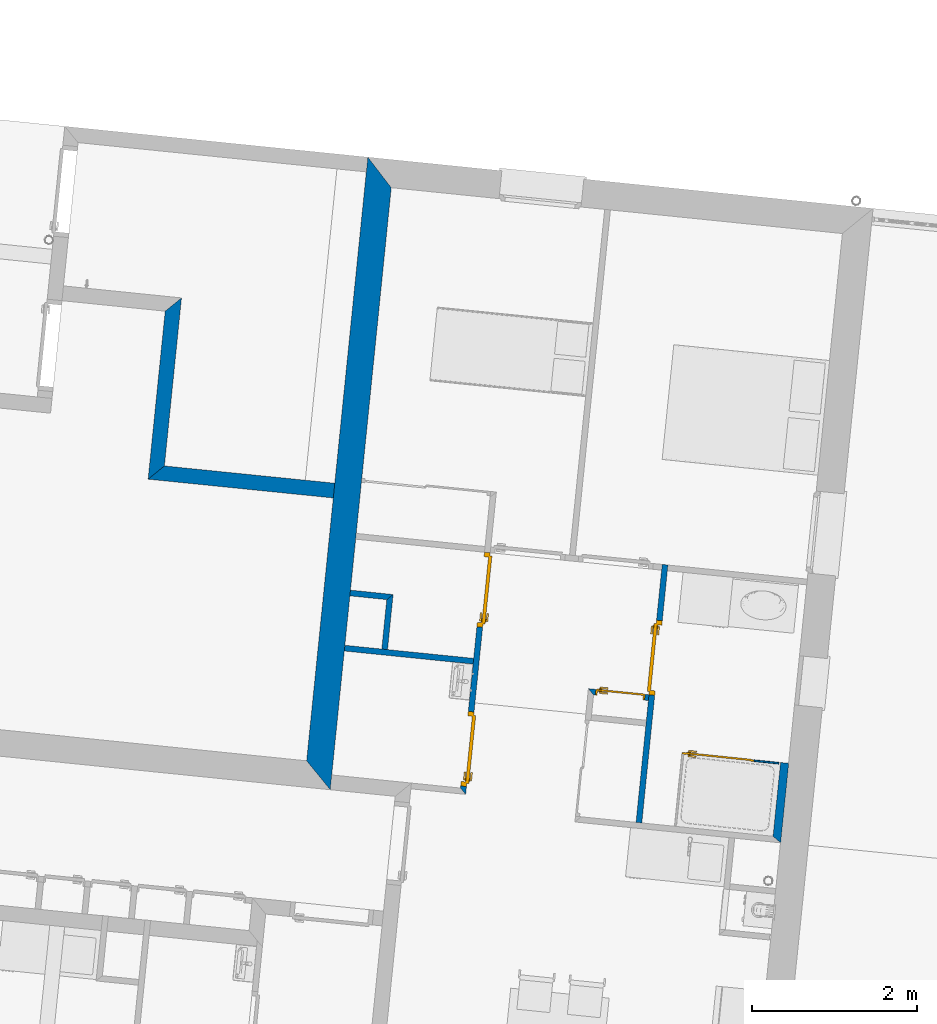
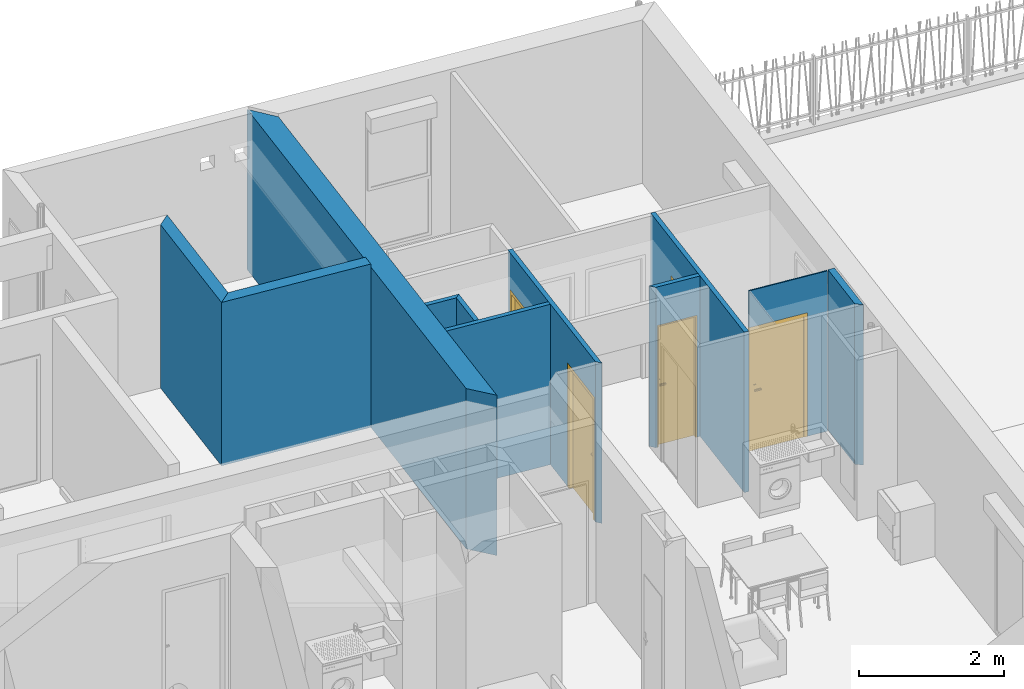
# One storey, part 79 of 171: 11 walls, 5 doors, 5 openings.
"""IFC2X3 building model written with IfcOpenShell, lengths in millimetres."""

from ifc_helpers import new_model, entity, si_unit, converted_unit, derived_unit, money_unit, direction, frame, origin_with_axes, origin_2d_with_axis, place, context, subcontext, project, spatial, polyline, rectangle, outline, extrude, faceted_brep, source, transform, mapped, material, layer, layer_set, layer_usage, type_object, element, fill, save


model = new_model("IFC2X3")

# Units and contexts
model_context = context("Model", 3, precision=0.01, world=origin_with_axes(), true_north=direction((0.0, 1.0)))
body_context = subcontext(model_context, "Body", "Model", "MODEL_VIEW")
ifc_project = project(units=[si_unit("LENGTHUNIT", "METRE", prefix="MILLI"), si_unit("AREAUNIT", "SQUARE_METRE"), si_unit("VOLUMEUNIT", "CUBIC_METRE"), converted_unit("PLANEANGLEUNIT", "DEGREE", entity("IfcPlaneAngleMeasure", 0.0174532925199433), si_unit("PLANEANGLEUNIT", "RADIAN"), dimensions=[0, 0, 0, 0, 0, 0, 0]), money_unit("USD"), converted_unit("TIMEUNIT", "Year", entity("IfcTimeMeasure", 31557600.0), si_unit("TIMEUNIT", "SECOND"), dimensions=[0, 0, 1, 0, 0, 0, 0]), si_unit("MASSUNIT", "GRAM", prefix="KILO"), si_unit("THERMODYNAMICTEMPERATUREUNIT", "DEGREE_CELSIUS"), si_unit("LUMINOUSINTENSITYUNIT", "LUMEN"), si_unit("ENERGYUNIT", "JOULE", prefix="MEGA"), derived_unit("THERMALCONDUCTANCEUNIT", [(si_unit("POWERUNIT", "WATT"), 1), (si_unit("LENGTHUNIT", "METRE"), -1), (si_unit("THERMODYNAMICTEMPERATUREUNIT", "KELVIN"), -1)]), derived_unit("SPECIFICHEATCAPACITYUNIT", [(si_unit("ENERGYUNIT", "JOULE"), 1), (si_unit("MASSUNIT", "GRAM", prefix="KILO"), -1), (si_unit("THERMODYNAMICTEMPERATUREUNIT", "KELVIN"), -1)]), derived_unit("MASSDENSITYUNIT", [(si_unit("MASSUNIT", "GRAM", prefix="KILO"), 1), (si_unit("VOLUMEUNIT", "CUBIC_METRE"), -1)])], contexts=[model_context])

# Site, building, storey
site_placement = place(None, origin_with_axes())
site = spatial("IfcSite", under=ifc_project, at=site_placement, Name="Site", CompositionType="ELEMENT")
building_placement = place(site_placement, origin_with_axes())
building = spatial("IfcBuilding", under=site, at=building_placement, Name="Bâtiment", CompositionType="ELEMENT")
storey_placement = place(building_placement, frame((0.0, 0.0, 3000.0), z_axis=(0.0, 0.0, 1.0), x_axis=(1.0, 0.0, 0.0)))
storey = spatial("IfcBuildingStorey", under=building, at=storey_placement, Name="rdc", CompositionType="ELEMENT", Elevation=3000.0)

# Walls
ifc_material_1 = material(Name="Hachure solide 268963992")
ifc_layer_1 = layer(ifc_material_1, 70.0, ventilated="UNKNOWN")
ifc_layer_set_1 = layer_set([ifc_layer_1], Name="Cloison 70 0826278243")
ifc_layer_usage_1 = layer_usage(ifc_layer_set_1, "AXIS2", "NEGATIVE", 70.0)
wall_type_1 = type_object("IfcWallType", Name="Cloison 70 0826278243 70", PredefinedType="NOTDEFINED")
wall_1_placement = place(storey_placement, frame((2234359.093324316, -610919.6337905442, 0.0), z_axis=(0.0, 0.0, 1.0), x_axis=(-0.9947430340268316, 0.1024026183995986, 0.0)))
element("IfcWallStandardCase", 1, at=wall_1_placement, inside=storey, type_object=wall_type_1, material=ifc_layer_usage_1, Name="Mur-149", context=body_context, shape_type="SweptSolid", body=[
    extrude(outline(polyline([(0.0, 0.0), (520.0369380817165, 0.0), (519.9271556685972, 70.00000000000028), (69.88252418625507, 70.00000000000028), (0.0, 0.0)])), origin_with_axes(), (0.0, 0.0, 1.0), 2700.0),
])
ifc_layer_usage_2 = layer_usage(ifc_layer_set_1, "AXIS2", "NEGATIVE", 70.0)
wall_2_placement = place(storey_placement, frame((2234284.3465245, -611657.89823324, 0.0), z_axis=(0.0, 0.0, 1.0), x_axis=(0.1007316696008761, 0.9949136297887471, 0.0)))
element("IfcWallStandardCase", 2, at=wall_2_placement, inside=storey, type_object=wall_type_1, material=ifc_layer_usage_2, Name="Mur-149", context=body_context, shape_type="SweptSolid", body=[
    extrude(outline(polyline([(70.0000007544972, 1.13686837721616e-10), (742.0387263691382, 0.0), (672.1562021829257, 70.00000000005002), (70.01027850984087, 70.00000000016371), (70.0000007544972, 1.13686837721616e-10)])), origin_with_axes(), (0.0, 0.0, 1.0), 2700.0),
])

# Wall, openings, doors
ifc_layer_usage_3 = layer_usage(ifc_layer_set_1, "AXIS2", "NEGATIVE", 0.0)
wall_3_placement = place(storey_placement, frame((2235176.883858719, -613267.9689967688, 0.0), z_axis=(0.0, 0.0, 1.0), x_axis=(0.1011031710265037, 0.9948759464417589, 0.0)))
wall_3 = element("IfcWallStandardCase", 3, at=wall_3_placement, inside=storey, type_object=wall_type_1, material=ifc_layer_usage_3, Name="Mur-153", context=body_context, shape_type="SweptSolid", body=[
    extrude(outline(polyline([(-70.00000146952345, -69.99999999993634), (2947.070109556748, -69.99999999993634), (2947.070109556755, 1.13686837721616e-10), (0.0, 0.0), (-70.00000146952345, -69.99999999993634)])), origin_with_axes(), (0.0, 0.0, 1.0), 2700.0),
])
opening_1_placement = place(wall_3_placement, frame((2422.079776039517, -1.13686837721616e-10, 0.0), z_axis=(0.0, 0.0, 1.0), x_axis=(1.0, 0.0, 0.0)))
opening_1 = element("IfcOpeningElement", 4, at=opening_1_placement, cuts=wall_3, Name="Por-283", context=body_context, shape_type="SweptSolid", body=[
    extrude(rectangle(XDim=910.0, YDim=2080.0, at=origin_2d_with_axis()), frame((0.0, 69.99999999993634, 1040.0), z_axis=(0.0, 1.0, 0.0), x_axis=(1.0, 0.0, 0.0)), (0.0, 0.0, -1.0), 140.0),
])
opening_2_placement = place(wall_3_placement, frame((480.5436980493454, -2.273736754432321e-10, 0.0), z_axis=(0.0, 0.0, 1.0), x_axis=(1.0, 0.0, 0.0)))
opening_2 = element("IfcOpeningElement", 5, at=opening_2_placement, cuts=wall_3, Name="Por-283", context=body_context, shape_type="SweptSolid", body=[
    extrude(rectangle(XDim=910.0, YDim=2080.0, at=origin_2d_with_axis()), frame((0.0, 70.00000000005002, 1040.0), z_axis=(0.0, 1.0, 0.0), x_axis=(1.0, 0.0, 0.0)), (0.0, 0.0, -1.0), 140.0),
])
door_style = type_object("IfcDoorStyle", Name="Porte_1v", ConstructionType="NOTDEFINED", OperationType="NOTDEFINED", ParameterTakesPrecedence=False, Sizeable=False)
shared_shape_1 = source(origin_with_axes(), body_context, "Body", "Brep", [
    faceted_brep([(-454.9999999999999, 0.0, 0.0), (-454.9999999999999, 0.0, 2080.0), (454.9999999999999, 0.0, 2080.0), (454.9999999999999, 0.0, 0.0), (414.9999999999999, 0.0, 0.0), (414.9999999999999, 0.0, 2040.0), (-414.9999999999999, 0.0, 2040.0), (-414.9999999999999, 0.0, 0.0), (-454.9999999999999, -69.99999999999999, 0.0), (-454.9999999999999, -69.99999999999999, 2080.0), (454.9999999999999, -69.99999999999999, 2080.0), (454.9999999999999, -69.99999999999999, 0.0), (399.9999999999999, -69.99999999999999, 0.0), (399.9999999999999, -15.0, 0.0), (414.9999999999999, -15.0, 0.0), (414.9999999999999, -15.0, 2040.0), (-414.9999999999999, -14.99999999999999, 2040.0), (-414.9999999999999, -14.99999999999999, 0.0), (-399.9999999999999, -14.99999999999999, 0.0), (-399.9999999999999, -69.99999999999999, 0.0), (-399.9999999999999, -69.99999999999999, 2025.0), (399.9999999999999, -69.99999999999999, 2025.0), (399.9999999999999, -15.0, 2025.0), (-399.9999999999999, -14.99999999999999, 2025.0)], [[[0, 1, 2, 3, 4, 5, 6, 7]], [[8, 9, 1, 0]], [[9, 10, 2, 1]], [[10, 11, 3, 2]], [[3, 11, 12, 13, 14, 4]], [[5, 4, 14, 15]], [[6, 5, 15, 16]], [[7, 6, 16, 17]], [[0, 7, 17, 18, 19, 8]], [[19, 20, 21, 12, 11, 10, 9, 8]], [[22, 13, 12, 21]], [[17, 16, 15, 14, 13, 22, 23, 18]], [[18, 23, 20, 19]], [[23, 22, 21, 20]]]),
    faceted_brep([(350.0, -15.0, 900.0), (350.0, -15.0, 1100.0), (389.9999999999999, -15.0, 1100.0), (389.9999999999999, -15.0, 900.0), (350.0, -25.0, 900.0), (350.0, -25.0, 1100.0), (389.9999999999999, -25.0, 1100.0), (389.9999999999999, -25.0, 900.0)], [[[0, 1, 2, 3]], [[0, 4, 5, 1]], [[1, 5, 6, 2]], [[2, 6, 7, 3]], [[3, 7, 4, 0]], [[7, 6, 5, 4]]]),
    faceted_brep([(279.9999999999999, -25.0, 1000.0), (279.9999999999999, -25.0, 1020.0), (379.9999999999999, -25.0, 1020.0), (379.9999999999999, -25.0, 1000.0), (279.9999999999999, -45.0, 1000.0), (279.9999999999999, -45.0, 1020.0), (379.9999999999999, -45.0, 1020.0), (379.9999999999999, -45.0, 1000.0)], [[[0, 1, 2, 3]], [[0, 4, 5, 1]], [[1, 5, 6, 2]], [[2, 6, 7, 3]], [[3, 7, 4, 0]], [[7, 6, 5, 4]]]),
    faceted_brep([(350.0, 34.99999999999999, 900.0), (350.0, 34.99999999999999, 1100.0), (389.9999999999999, 34.99999999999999, 1100.0), (389.9999999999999, 34.99999999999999, 900.0), (350.0, 24.99999999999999, 900.0), (350.0, 24.99999999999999, 1100.0), (389.9999999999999, 24.99999999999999, 1100.0), (389.9999999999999, 24.99999999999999, 900.0)], [[[0, 1, 2, 3]], [[0, 4, 5, 1]], [[1, 5, 6, 2]], [[2, 6, 7, 3]], [[3, 7, 4, 0]], [[7, 6, 5, 4]]]),
    faceted_brep([(279.9999999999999, 54.99999999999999, 1000.0), (279.9999999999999, 54.99999999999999, 1020.0), (379.9999999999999, 54.99999999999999, 1020.0), (379.9999999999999, 54.99999999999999, 1000.0), (279.9999999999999, 34.99999999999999, 1000.0), (279.9999999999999, 34.99999999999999, 1020.0), (379.9999999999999, 34.99999999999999, 1020.0), (379.9999999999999, 34.99999999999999, 1000.0)], [[[0, 1, 2, 3]], [[0, 4, 5, 1]], [[1, 5, 6, 2]], [[2, 6, 7, 3]], [[3, 7, 4, 0]], [[7, 6, 5, 4]]]),
    faceted_brep([(414.9999999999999, 24.99999999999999, 0.0), (414.9999999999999, -15.0, 0.0), (-414.9999999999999, -14.99999999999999, 0.0), (-414.9999999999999, 25.0, 0.0), (414.9999999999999, 24.99999999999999, 2040.0), (414.9999999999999, -15.0, 2040.0), (-414.9999999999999, -14.99999999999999, 2040.0), (-414.9999999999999, 25.0, 2040.0)], [[[0, 1, 2, 3]], [[4, 5, 1, 0]], [[1, 5, 6, 2]], [[3, 2, 6, 7]], [[0, 3, 7, 4]], [[7, 6, 5, 4]]]),
])
door_1_placement = place(opening_2_placement, frame((414.9999999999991, 0.0, 0.0), z_axis=(0.0, 0.0, 1.0), x_axis=(-1.0, 0.0, 0.0)))
door_1 = element("IfcDoor", 6, at=door_1_placement, inside=storey, type_object=door_style, Name="Por-283", OverallHeight=2040.0, OverallWidth=830.0, context=body_context, shape_type="MappedRepresentation", body=[
    mapped(shared_shape_1, transform((415.0000000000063, 69.99999999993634, 0.0))),
])
fill(opening_2, door_1)
door_2_placement = place(opening_1_placement, frame((414.9999999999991, 0.0, 0.0), z_axis=(0.0, 0.0, 1.0), x_axis=(-1.0, 0.0, 0.0)))
door_2 = element("IfcDoor", 7, at=door_2_placement, inside=storey, type_object=door_style, Name="Por-283", OverallHeight=2040.0, OverallWidth=830.0, context=body_context, shape_type="MappedRepresentation", body=[
    mapped(shared_shape_1, transform((415.0000000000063, 69.99999999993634, 0.0))),
])
fill(opening_1, door_2)

# Wall, opening, door
ifc_layer_usage_4 = layer_usage(ifc_layer_set_1, "AXIS2", "NEGATIVE", 0.0)
wall_4_placement = place(storey_placement, frame((2237306.811489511, -613684.1144448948, 0.0), z_axis=(0.0, 0.0, 1.0), x_axis=(0.1008361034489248, 0.994903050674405, 0.0)))
wall_4 = element("IfcWallStandardCase", 8, at=wall_4_placement, inside=storey, type_object=wall_type_1, material=ifc_layer_usage_4, Name="Mur-153", context=body_context, shape_type="SweptSolid", body=[
    extrude(outline(polyline([(-0.01878249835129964, -70.00000000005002), (3145.750441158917, -70.00000000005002), (3145.750441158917, 0.0), (1.234235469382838e-05, -1.13686837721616e-10), (-0.01878249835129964, -70.00000000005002)])), origin_with_axes(), (0.0, 0.0, 1.0), 2700.0),
])
opening_3_placement = place(wall_4_placement, frame((2010.687155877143, -1.13686837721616e-10, 0.0), z_axis=(0.0, 0.0, 1.0), x_axis=(1.0, 0.0, 0.0)))
opening_3 = element("IfcOpeningElement", 9, at=opening_3_placement, cuts=wall_4, Name="Por-283", context=body_context, shape_type="SweptSolid", body=[
    extrude(rectangle(XDim=910.0, YDim=2080.0, at=origin_2d_with_axis()), frame((0.0, -70.00000000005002, 1040.0), z_axis=(0.0, -1.0, 0.0), x_axis=(-1.0, 0.0, 0.0)), (0.0, 0.0, -1.0), 140.0),
])
door_3_placement = place(opening_3_placement, frame((-415.000000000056, 2.273736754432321e-10, 0.0), z_axis=(0.0, 0.0, 1.0), x_axis=(1.0, 0.0, 0.0)))
door_3 = element("IfcDoor", 10, at=door_3_placement, inside=storey, type_object=door_style, Name="Por-283", OverallHeight=2040.0, OverallWidth=830.0, context=body_context, shape_type="MappedRepresentation", body=[
    mapped(shared_shape_1, transform((414.9999999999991, 0.0, 0.0))),
])
fill(opening_3, door_3)

ifc_material_2 = material(Name="Hachure solide 269229667")
ifc_layer_2 = layer(ifc_material_2, 70.0, ventilated="UNKNOWN")
ifc_layer_set_2 = layer_set([ifc_layer_2], Name="Cloison 70 0836576958")
ifc_layer_usage_5 = layer_usage(ifc_layer_set_2, "AXIS2", "NEGATIVE", 0.0)
wall_type_2 = type_object("IfcWallType", Name="Cloison 70 0836576958 70", PredefinedType="NOTDEFINED")
wall_5_placement = place(storey_placement, frame((2236728.789820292, -612061.8733555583, 0.0), z_axis=(0.0, 0.0, 1.0), x_axis=(0.9949030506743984, -0.1008361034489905, 0.0)))
wall_5 = element("IfcWallStandardCase", 11, at=wall_5_placement, inside=storey, type_object=wall_type_2, material=ifc_layer_usage_5, Name="Mur-148", context=body_context, shape_type="SweptSolid", body=[
    extrude(outline(polyline([(70.00000000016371, -69.99999999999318), (738.6559923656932, -70.00000000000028), (738.6559923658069, 0.0), (0.0, 0.0), (70.00000000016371, -69.99999999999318)])), origin_with_axes(), (0.0, 0.0, 1.0), 2700.0),
])
opening_4_placement = place(wall_5_placement, frame((391.7999475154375, 0.0, 0.0), z_axis=(0.0, 0.0, 1.0), x_axis=(1.0, 0.0, 0.0)))
opening_4 = element("IfcOpeningElement", 12, at=opening_4_placement, cuts=wall_5, Name="Por-274", context=body_context, shape_type="SweptSolid", body=[
    extrude(rectangle(XDim=600.0000000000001, YDim=2050.0, at=origin_2d_with_axis()), frame((-1.13686837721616e-10, -70.00000000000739, 1025.0), z_axis=(0.0, 1.0, 0.0), x_axis=(1.0, 0.0, 0.0)), (0.0, 0.0, 1.0), 140.0),
])
shared_shape_2 = source(origin_with_axes(), body_context, "Body", "Brep", [
    faceted_brep([(300.0, 0.0, 0.0), (290.0, 0.0, 0.0), (290.0, 0.0, 2040.0), (-290.0, 0.0, 2040.0), (-290.0, 0.0, 0.0), (-300.0, 0.0, 0.0), (-300.0, 0.0, 2050.0), (300.0, 0.0, 2050.0), (300.0, -70.0, 0.0), (279.9999999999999, -70.0, 0.0), (279.9999999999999, -15.0, 0.0), (290.0, -15.0, 0.0), (290.0, -15.0, 2040.0), (-290.0, -15.0, 2040.0), (-290.0, -15.0, 0.0), (-279.9999999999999, -15.0, 0.0), (-279.9999999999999, -70.0, 0.0), (-300.0, -70.0, 0.0), (-300.0, -70.0, 2050.0), (300.0, -70.0, 2050.0), (-279.9999999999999, -70.0, 2030.0), (279.9999999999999, -70.0, 2030.0), (279.9999999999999, -15.0, 2030.0), (-279.9999999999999, -15.0, 2030.0)], [[[0, 1, 2, 3, 4, 5, 6, 7]], [[0, 8, 9, 10, 11, 1]], [[1, 11, 12, 2]], [[2, 12, 13, 3]], [[3, 13, 14, 4]], [[5, 4, 14, 15, 16, 17]], [[18, 6, 5, 17]], [[19, 7, 6, 18]], [[8, 0, 7, 19]], [[9, 8, 19, 18, 17, 16, 20, 21]], [[10, 9, 21, 22]], [[11, 10, 22, 23, 15, 14, 13, 12]], [[23, 20, 16, 15]], [[22, 21, 20, 23]]]),
    faceted_brep([(-224.9999999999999, -15.0, 900.0), (-264.9999999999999, -15.0, 900.0), (-264.9999999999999, -15.0, 1100.0), (-224.9999999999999, -15.0, 1100.0), (-224.9999999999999, -25.0, 900.0), (-264.9999999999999, -25.0, 900.0), (-264.9999999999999, -25.0, 1100.0), (-224.9999999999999, -25.0, 1100.0)], [[[0, 1, 2, 3]], [[1, 0, 4, 5]], [[2, 1, 5, 6]], [[3, 2, 6, 7]], [[0, 3, 7, 4]], [[5, 4, 7, 6]]]),
    faceted_brep([(-154.9999999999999, -25.0, 1000.0), (-254.9999999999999, -25.0, 1000.0), (-254.9999999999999, -25.0, 1020.0), (-154.9999999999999, -25.0, 1020.0), (-154.9999999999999, -45.0, 1000.0), (-254.9999999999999, -45.0, 1000.0), (-254.9999999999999, -45.0, 1020.0), (-154.9999999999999, -45.0, 1020.0)], [[[0, 1, 2, 3]], [[1, 0, 4, 5]], [[2, 1, 5, 6]], [[3, 2, 6, 7]], [[0, 3, 7, 4]], [[5, 4, 7, 6]]]),
    faceted_brep([(-224.9999999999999, 15.0, 900.0), (-264.9999999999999, 15.0, 900.0), (-264.9999999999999, 15.0, 1100.0), (-224.9999999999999, 15.0, 1100.0), (-224.9999999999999, 5.000000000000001, 900.0), (-264.9999999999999, 5.000000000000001, 900.0), (-264.9999999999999, 5.000000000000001, 1100.0), (-224.9999999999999, 5.000000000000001, 1100.0)], [[[0, 1, 2, 3]], [[1, 0, 4, 5]], [[2, 1, 5, 6]], [[3, 2, 6, 7]], [[0, 3, 7, 4]], [[5, 4, 7, 6]]]),
    faceted_brep([(-154.9999999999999, 35.0, 1000.0), (-254.9999999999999, 35.0, 1000.0), (-254.9999999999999, 35.0, 1020.0), (-154.9999999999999, 35.0, 1020.0), (-154.9999999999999, 15.0, 1000.0), (-254.9999999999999, 15.0, 1000.0), (-254.9999999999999, 15.0, 1020.0), (-154.9999999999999, 15.0, 1020.0)], [[[0, 1, 2, 3]], [[1, 0, 4, 5]], [[2, 1, 5, 6]], [[3, 2, 6, 7]], [[0, 3, 7, 4]], [[5, 4, 7, 6]]]),
    faceted_brep([(-290.0, 5.000000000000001, 0.0), (290.0, 5.000000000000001, 0.0), (290.0, -15.0, 0.0), (-290.0, -15.0, 0.0), (-290.0, 5.000000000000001, 2040.0), (290.0, 5.000000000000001, 2040.0), (290.0, -15.0, 2040.0), (-290.0, -15.0, 2040.0)], [[[0, 1, 2, 3]], [[0, 4, 5, 1]], [[1, 5, 6, 2]], [[3, 2, 6, 7]], [[4, 0, 3, 7]], [[5, 4, 7, 6]]]),
])
door_4_placement = place(opening_4_placement, frame((-290.000000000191, 0.0, 0.0), z_axis=(0.0, 0.0, 1.0), x_axis=(1.0, 0.0, 0.0)))
door_4 = element("IfcDoor", 13, at=door_4_placement, inside=storey, type_object=door_style, Name="Por-274", OverallHeight=2040.0, OverallWidth=580.0, context=body_context, shape_type="MappedRepresentation", body=[
    mapped(shared_shape_2, transform((290.0000000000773, 0.0, 0.0))),
])
fill(opening_4, door_4)

# Walls
ifc_layer_usage_6 = layer_usage(ifc_layer_set_2, "AXIS2", "POSITIVE", 0.0)
wall_6_placement = place(storey_placement, frame((2233767.321974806, -611605.4745394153, 0.0), z_axis=(0.0, 0.0, 1.0), x_axis=(0.9948988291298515, -0.1008777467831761, 0.0)))
element("IfcWallStandardCase", 14, at=wall_6_placement, inside=storey, type_object=wall_type_2, material=ifc_layer_usage_6, Name="Mur-148", context=body_context, shape_type="SweptSolid", body=[
    extrude(outline(polyline([(0.0, 0.0), (1570.422715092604, 0.0), (1570.438575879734, 69.99999999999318), (0.0, 70.00000000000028), (0.0, 0.0)])), origin_with_axes(), (0.0, 0.0, 1.0), 2700.0),
])
ifc_material_3 = material(Name="Parpaing 312445824")
ifc_layer_3 = layer(ifc_material_3, 180.0, ventilated="UNKNOWN")
ifc_material_4 = material(Name="Isolant styromousse 301821074")
ifc_layer_4 = layer(ifc_material_4, 140.0, ventilated="UNKNOWN")
ifc_layer_set_3 = layer_set([ifc_layer_3, ifc_layer_4], Name="isol int 18+14")
ifc_layer_usage_7 = layer_usage(ifc_layer_set_3, "AXIS2", "POSITIVE", 0.0)
wall_type_3 = type_object("IfcWallType", Name="isol int 18+14 320", PredefinedType="NOTDEFINED")
wall_7_placement = place(storey_placement, frame((2233596.309467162, -613288.2719345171, 0.0), z_axis=(0.0, 0.0, 1.0), x_axis=(0.1008424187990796, 0.9949024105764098, 0.0)))
element("IfcWallStandardCase", 15, at=wall_7_placement, inside=storey, type_object=wall_type_3, material=ifc_layer_usage_7, Name="Mur-143", context=body_context, shape_type="SweptSolid", body=[
    extrude(outline(polyline([(0.0, 0.0), (7341.91527730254, 1.13686837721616e-10), (7681.999174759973, 320.00000000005), (320.0838803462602, 320.0000000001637), (0.0, 0.0)])), origin_with_axes(), (0.0, 0.0, 1.0), 2700.0),
])
ifc_layer_5 = layer(ifc_material_3, 180.0, ventilated="UNKNOWN")
ifc_layer_set_4 = layer_set([ifc_layer_5], Name="Beton  18 0836643197")
ifc_layer_usage_8 = layer_usage(ifc_layer_set_4, "AXIS2", "NEGATIVE", 0.0)
wall_type_4 = type_object("IfcWallType", Name="Beton  18 0836643197 180", PredefinedType="NOTDEFINED")
wall_8_placement = place(storey_placement, frame((2231584.262086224, -609359.722601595, 0.0), z_axis=(0.0, 0.0, 1.0), x_axis=(0.9949024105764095, -0.100842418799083, 0.0)))
element("IfcWallStandardCase", 16, at=wall_8_placement, inside=storey, type_object=wall_type_4, material=ifc_layer_usage_8, Name="Mur-142", context=body_context, shape_type="SweptSolid", body=[
    extrude(outline(polyline([(-180.0634369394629, -179.9999999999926), (2077.955206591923, -179.9999999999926), (2077.955206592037, 0.0), (0.0, 0.0), (-180.0634369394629, -179.9999999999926)])), origin_with_axes(), (0.0, 0.0, 1.0), 2750.0),
])
ifc_layer_usage_9 = layer_usage(ifc_layer_set_4, "AXIS2", "NEGATIVE", 0.0)
wall_9_placement = place(storey_placement, frame((2231791.626852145, -607321.0404626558, 0.0), z_axis=(0.0, 0.0, 1.0), x_axis=(-0.1011929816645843, -0.9948668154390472, 0.0)))
element("IfcWallStandardCase", 17, at=wall_9_placement, inside=storey, type_object=wall_type_4, material=ifc_layer_usage_9, Name="Mur-142", context=body_context, shape_type="SweptSolid", body=[
    extrude(outline(polyline([(180.0000000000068, -179.99999999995), (2229.264503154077, -179.99999999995), (2049.201066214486, 1.13686837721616e-10), (0.0, 0.0), (180.0000000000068, -179.99999999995)])), origin_with_axes(), (0.0, 0.0, 1.0), 2750.0),
])
ifc_layer_6 = layer(ifc_material_1, 100.0, ventilated="UNKNOWN")
ifc_layer_set_5 = layer_set([ifc_layer_6], Name="Cloison 100 0826278243")
ifc_layer_usage_10 = layer_usage(ifc_layer_set_5, "AXIS2", "POSITIVE", -100.0)
wall_type_5 = type_object("IfcWallType", Name="Cloison 100 0826278243 100", PredefinedType="NOTDEFINED")
wall_10_placement = place(storey_placement, frame((2239159.512419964, -612967.7578331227, 0.0), z_axis=(0.0, 0.0, 1.0), x_axis=(-0.1012357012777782, -0.9948624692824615, 0.0)))
element("IfcWallStandardCase", 18, at=wall_10_placement, inside=storey, type_object=wall_type_5, material=ifc_layer_usage_10, Name="Mur-149", context=body_context, shape_type="SweptSolid", body=[
    extrude(outline(polyline([(0.0, -100.0000000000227), (900.0133155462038, -100.0000000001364), (970.0000006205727, 0.0), (0.0, 0.0), (0.0, -100.0000000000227)])), origin_with_axes(), (0.0, 0.0, 1.0), 2700.0),
])

# Wall, opening, door
ifc_material_5 = material(Name="Empty Fill 292498448")
ifc_layer_7 = layer(ifc_material_5, 20.0, ventilated="UNKNOWN")
ifc_layer_set_6 = layer_set([ifc_layer_7], Name="mur 2cm")
ifc_layer_usage_11 = layer_usage(ifc_layer_set_6, "AXIS2", "POSITIVE", -20.0)
wall_type_6 = type_object("IfcWallType", Name="mur 2cm 20", PredefinedType="NOTDEFINED")
wall_11_placement = place(storey_placement, frame((2237866.189861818, -612836.1646692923, 0.0), z_axis=(0.0, 0.0, 1.0), x_axis=(0.9947283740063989, -0.1025449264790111, 0.0)))
wall_11 = element("IfcWallStandardCase", 19, at=wall_11_placement, inside=storey, type_object=wall_type_6, material=ifc_layer_usage_11, Name="Mur-148", context=body_context, shape_type="SweptSolid", body=[
    extrude(outline(polyline([(0.0, -20.00000000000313), (1180.110441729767, -19.99999999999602), (1180.110441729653, 0.0), (0.0, 0.0), (0.0, -20.00000000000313)])), origin_with_axes(), (0.0, 0.0, 1.0), 2700.0),
])
opening_5_placement = place(wall_11_placement, frame((440.0000000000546, 0.0, 0.0), z_axis=(0.0, 0.0, 1.0), x_axis=(1.0, 0.0, 0.0)))
opening_5 = element("IfcOpeningElement", 20, at=opening_5_placement, cuts=wall_11, Name="Por-288", context=body_context, shape_type="SweptSolid", body=[
    extrude(rectangle(XDim=880.0000119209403, YDim=2080.0, at=origin_2d_with_axis()), frame((5.960600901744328e-06, -19.99999999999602, 1040.0), z_axis=(0.0, 1.0, 0.0), x_axis=(1.0, 0.0, 0.0)), (0.0, 0.0, 1.0), 40.0),
])
shared_shape_3 = source(origin_with_axes(), body_context, "Body", "Brep", [
    faceted_brep([(440.0, 0.0, 0.0), (400.0, 0.0, 0.0), (400.0, 0.0, 2040.0), (-400.0, 0.0, 2040.0), (-400.0, 0.0, 0.0), (-440.0, 0.0, 0.0), (-440.0, 0.0, 2080.0), (440.0, 0.0, 2080.0), (440.0, -20.0, 0.0), (385.0, -20.0, 0.0), (385.0, -15.0, 0.0), (400.0, -15.0, 0.0), (400.0, -15.0, 2040.0), (-400.0, -15.0, 2040.0), (-400.0, -15.0, 0.0), (-385.0, -15.0, 0.0), (-385.0, -20.0, 0.0), (-440.0, -20.0, 0.0), (-440.0, -20.0, 2080.0), (440.0, -20.0, 2080.0), (-385.0, -20.0, 2025.0), (385.0, -20.0, 2025.0), (385.0, -15.0, 2025.0), (-385.0, -15.0, 2025.0)], [[[0, 1, 2, 3, 4, 5, 6, 7]], [[0, 8, 9, 10, 11, 1]], [[1, 11, 12, 2]], [[2, 12, 13, 3]], [[3, 13, 14, 4]], [[5, 4, 14, 15, 16, 17]], [[18, 6, 5, 17]], [[19, 7, 6, 18]], [[8, 0, 7, 19]], [[9, 8, 19, 18, 17, 16, 20, 21]], [[10, 9, 21, 22]], [[11, 10, 22, 23, 15, 14, 13, 12]], [[23, 20, 16, 15]], [[22, 21, 20, 23]]]),
    faceted_brep([(-335.0, -15.0, 900.0), (-375.0, -15.0, 900.0), (-375.0, -15.0, 1100.0), (-335.0, -15.0, 1100.0), (-335.0, -25.0, 900.0), (-375.0, -25.0, 900.0), (-375.0, -25.0, 1100.0), (-335.0, -25.0, 1100.0)], [[[0, 1, 2, 3]], [[1, 0, 4, 5]], [[2, 1, 5, 6]], [[3, 2, 6, 7]], [[0, 3, 7, 4]], [[5, 4, 7, 6]]]),
    faceted_brep([(-265.0, -25.0, 1000.0), (-365.0, -25.0, 1000.0), (-365.0, -25.0, 1020.0), (-265.0, -25.0, 1020.0), (-265.0, -45.0, 1000.0), (-365.0, -45.0, 1000.0), (-365.0, -45.0, 1020.0), (-265.0, -45.0, 1020.0)], [[[0, 1, 2, 3]], [[1, 0, 4, 5]], [[2, 1, 5, 6]], [[3, 2, 6, 7]], [[0, 3, 7, 4]], [[5, 4, 7, 6]]]),
    faceted_brep([(-335.0, 15.0, 900.0), (-375.0, 15.0, 900.0), (-375.0, 15.0, 1100.0), (-335.0, 15.0, 1100.0), (-335.0, 5.000000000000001, 900.0), (-375.0, 5.000000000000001, 900.0), (-375.0, 5.000000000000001, 1100.0), (-335.0, 5.000000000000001, 1100.0)], [[[0, 1, 2, 3]], [[1, 0, 4, 5]], [[2, 1, 5, 6]], [[3, 2, 6, 7]], [[0, 3, 7, 4]], [[5, 4, 7, 6]]]),
    faceted_brep([(-265.0, 35.0, 1000.0), (-365.0, 35.0, 1000.0), (-365.0, 35.0, 1020.0), (-265.0, 35.0, 1020.0), (-265.0, 15.0, 1000.0), (-365.0, 15.0, 1000.0), (-365.0, 15.0, 1020.0), (-265.0, 15.0, 1020.0)], [[[0, 1, 2, 3]], [[1, 0, 4, 5]], [[2, 1, 5, 6]], [[3, 2, 6, 7]], [[0, 3, 7, 4]], [[5, 4, 7, 6]]]),
    faceted_brep([(-400.0, 5.000000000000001, 0.0), (400.0, 5.000000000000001, 0.0), (400.0, -15.0, 0.0), (-400.0, -15.0, 0.0), (-400.0, 5.000000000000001, 2040.0), (400.0, 5.000000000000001, 2040.0), (400.0, -15.0, 2040.0), (-400.0, -15.0, 2040.0)], [[[0, 1, 2, 3]], [[0, 4, 5, 1]], [[1, 5, 6, 2]], [[3, 2, 6, 7]], [[4, 0, 3, 7]], [[5, 4, 7, 6]]]),
])
door_5_placement = place(opening_5_placement, frame((-399.9999999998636, 0.0, 0.0), z_axis=(0.0, 0.0, 1.0), x_axis=(1.0, 0.0, 0.0)))
door_5 = element("IfcDoor", 21, at=door_5_placement, inside=storey, type_object=door_style, Name="Por-288", OverallHeight=2040.0, OverallWidth=800.0, context=body_context, shape_type="MappedRepresentation", body=[
    mapped(shared_shape_3, transform((399.9999999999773, 0.0, 0.0))),
])
fill(opening_5, door_5)

save(model, "model.ifc")
